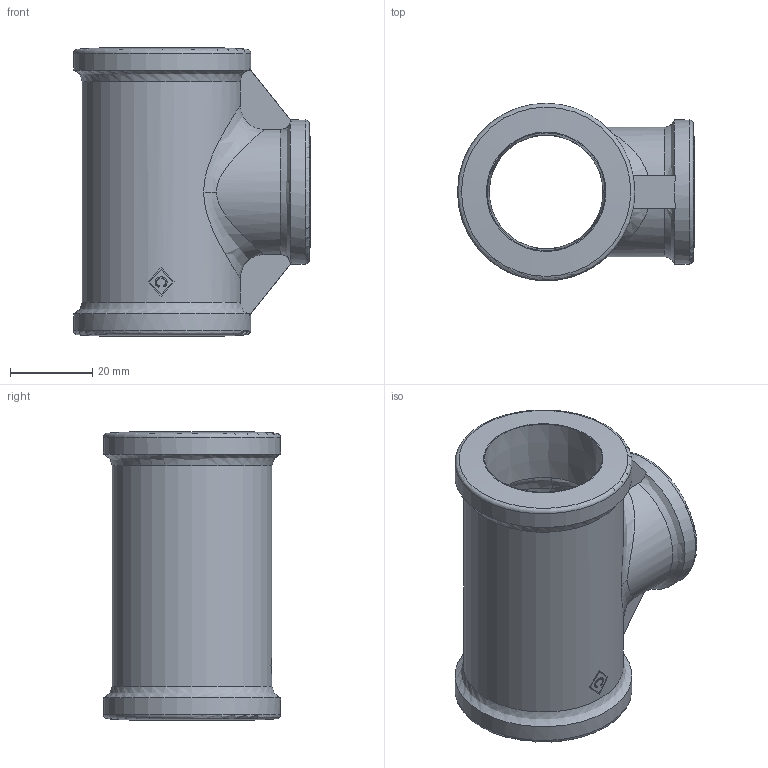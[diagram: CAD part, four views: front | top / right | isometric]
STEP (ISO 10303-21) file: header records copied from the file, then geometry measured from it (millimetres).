
FILE_DESCRIPTION((''),'2;1');
FILE_NAME('P:\Fastrack\53909_CRANE\Crane\Fig.161 Tee\New 1.00 inch\161-1.00x0.75.stp','2009-09-16T12:02:29',('btaylor'),(''),'Autodesk Inventor 2008','Autodesk Inventor 2008','');
FILE_SCHEMA(('AUTOMOTIVE_DESIGN { 1 0 10303 214 1 1 1 1 }'));
Length unit declared in the file: millimetre
Products named in the file (1): 161-1.00x0.75
Bounding box: 57.5 x 43 x 70 mm (x, y, z)
Volume: 42074.2 mm3; surface area: 20261.9 mm2
Topology: 1 solids, 1 shells, 64 faces, 166 edges, 106 vertices
Faces by surface type: bspline 24, plane 19, cylinder 12, cone 6, torus 3
Full cylindrical faces by diameter (mm): 35 x1, 43 x2
Entity records: 4978 total; most frequent: CARTESIAN_POINT 3548, ORIENTED_EDGE 300, DIRECTION 256, EDGE_CURVE 150, AXIS2_PLACEMENT_3D 109, VERTEX_POINT 102, EDGE_LOOP 82, FACE_OUTER_BOUND 64
